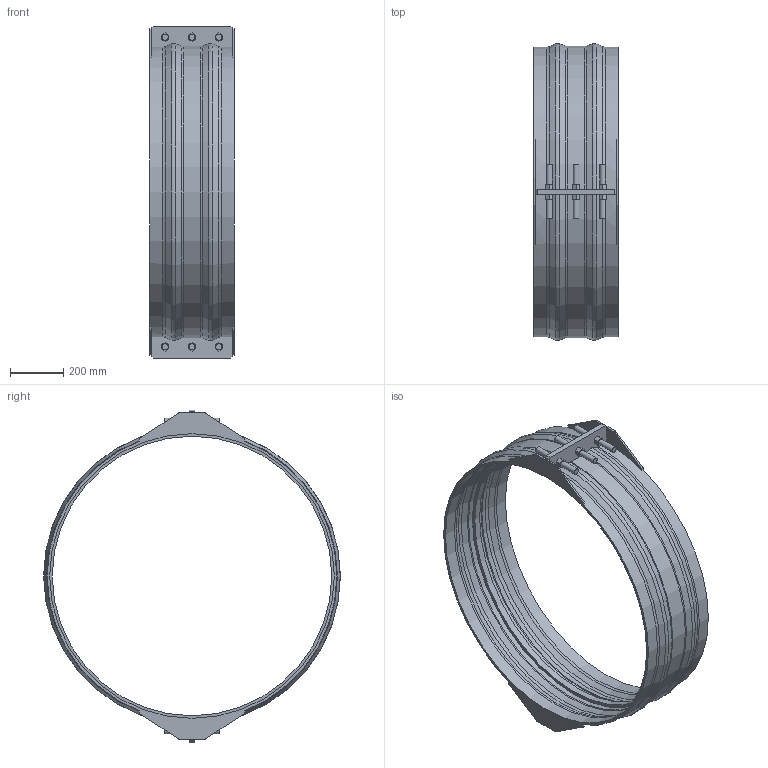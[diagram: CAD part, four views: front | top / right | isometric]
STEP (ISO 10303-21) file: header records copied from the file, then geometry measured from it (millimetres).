
FILE_DESCRIPTION(/* description */ ('VIC SS RESTRAINED COUPLING STYLE 233S (FLEX) (BRD)','CAx-IF Rec.Pracs.---Representation and Presentation of Product Manufacturing Information (PMI)---4.0---2014-10-13'),/* implementation_level */ '2;1');
FILE_NAME(/* name */ 'C:\Users\kkamble\AppData\Roaming\Autodesk\ApplicationPlugins\Back Up\Victaulic_VBSP_Coupling Flexible Restrained_Style 233S (BRD)\Victaulic_VBSP_Coupling Flexible Restrained_Style 233S (BRD)_150psi_42 (1050).stp',/* time_stamp */ '2020-09-22T18:29:47+06:00',/* author */ ('Vjadhav'),/* organization */ ('Victaulic'),/* preprocessor_version */ 'ST-DEVELOPER v17.2',/* originating_system */ 'Autodesk Inventor 2019',/* authorisation */ '');
FILE_SCHEMA (('AP242_MANAGED_MODEL_BASED_3D_ENGINEERING_MIM_LF { 1 0 10303 442 1 1 4 }'));
Length unit declared in the file: inch
Products named in the file (1): Style_233S_Type_2_150psi-42.0
Bounding box: 317.5 x 1112.54 x 1244.6 mm (x, y, z)
Volume: 13342418.7 mm3; surface area: 2678277.5 mm2
Topology: 1 solids, 1 shells, 211 faces, 557 edges, 374 vertices
Faces by surface type: plane 142, cylinder 39, torus 18, cone 12
Full cylindrical faces by diameter (mm): 22.225 x12, 1047.75 x1, 1066.8 x2, 1073.15 x2
Entity records: 7040 total; most frequent: CARTESIAN_POINT 1368, DIRECTION 1119, ORIENTED_EDGE 1114, EDGE_CURVE 557, LINE 381, VECTOR 381, VERTEX_POINT 374, AXIS2_PLACEMENT_3D 369
